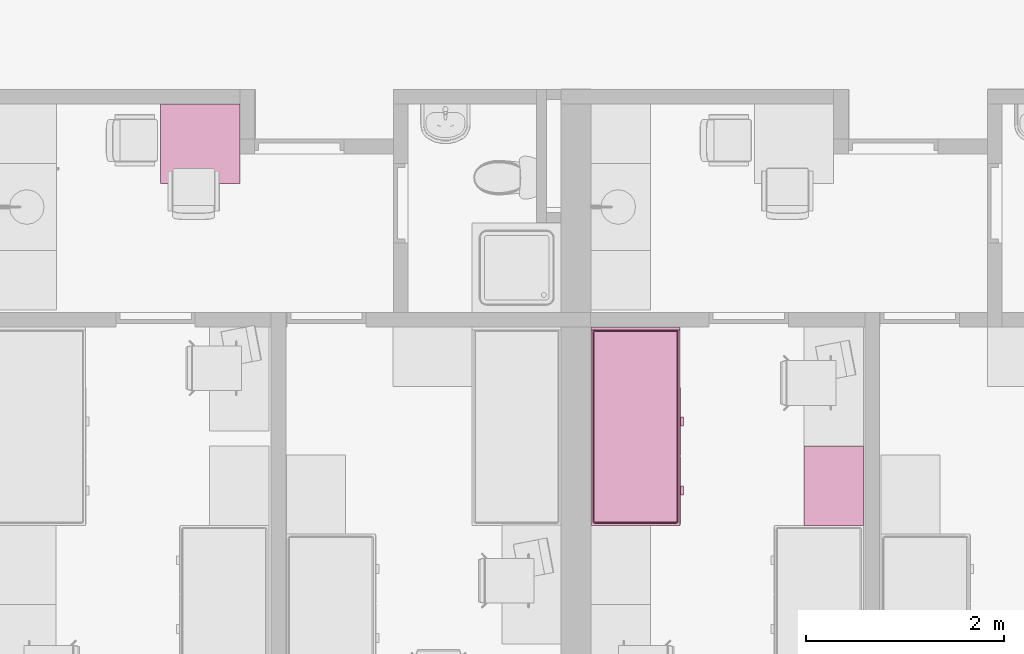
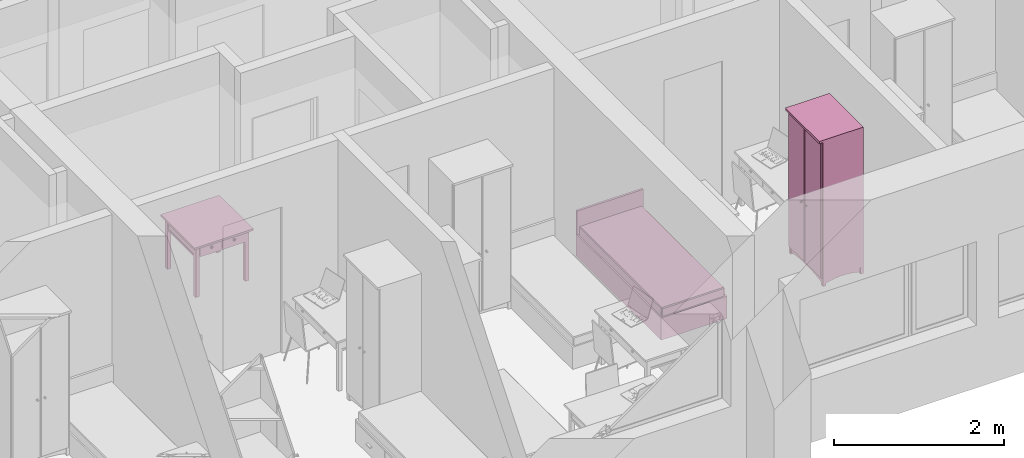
# One storey, part 105 of 165: 3 furnishings.
"""IFC2X3 building model written with IfcOpenShell, lengths in millimetres."""

import ifcopenshell
import ifcopenshell.guid

model = None  # the IFC model being written
_history = None  # IfcOwnerHistory: only IFC2X3 demands one
_inside = {}  # id of a spatial element -> (the spatial element, [elements in it])
_under = {}  # id of a project, library or spatial element -> (it, [spatial elements below it])
_declared = {}  # id of a project -> (the project, [libraries it declares])
_typed = {}  # id of a type object -> (the type object, [elements of that type])
_made_of = {}  # id of a material, layer set ... -> (it, [elements and type objects made of it])


def new_model(schema):
    """Start an empty IFC model of exactly this schema.

    Asked for "IFC4X3", IfcOpenShell would pick the latest addendum, in which some entities
    have other attributes; the version numbers below select the first issue.
    IFC2X3 requires an IfcOwnerHistory on every rooted entity: one is made here for all.
    """
    global model, _history
    if schema == "IFC4X3":
        model = ifcopenshell.file(schema_version=(4, 3, 0, 0))
    else:
        model = ifcopenshell.file(schema=schema)
    _inside.clear()
    _under.clear()
    _declared.clear()
    _typed.clear()
    _made_of.clear()
    _history = None
    if model.schema == "IFC2X3":
        org = make("IfcOrganization", Name="unknown")
        user = make(
            "IfcPersonAndOrganization",
            ThePerson=make("IfcPerson", FamilyName="unknown"),
            TheOrganization=org,
        )
        app = make(
            "IfcApplication",
            ApplicationDeveloper=org,
            Version="unknown",
            ApplicationFullName="unknown",
            ApplicationIdentifier="unknown",
        )
        _history = make(
            "IfcOwnerHistory",
            OwningUser=user,
            OwningApplication=app,
            ChangeAction="ADDED",
            CreationDate=0,
        )
    return model


def make(cls, **values):
    """One entity of the class cls with the attributes given. An attribute that is None is left unset."""
    return model.create_entity(
        cls, **{name: value for name, value in values.items() if value is not None}
    )


def entity(cls, *values):
    """Any entity or typed value of the class cls, its attributes in the order of the schema. None: left unset."""
    e = model.create_entity(cls)
    for i, value in enumerate(values):
        if value is not None:
            e[i] = value
    return e


def rooted(cls, **values):
    """An entity with a GlobalId (a new one), such as an element, a storey or a relation."""
    return make(cls, GlobalId=ifcopenshell.guid.new(), OwnerHistory=_history, **values)


def si_unit(unit_type, name, prefix=None):
    """IfcSIUnit, for example si_unit("LENGTHUNIT", "METRE", prefix="MILLI")."""
    return make("IfcSIUnit", UnitType=unit_type, Prefix=prefix, Name=name)


def converted_unit(unit_type, name, factor, base, dimensions=None, offset=None):
    """IfcConversionBasedUnit, such as the inch: factor (a typed value) times the base unit."""
    return make(
        "IfcConversionBasedUnit"
        if offset is None
        else "IfcConversionBasedUnitWithOffset",
        ConversionOffset=offset,
        Dimensions=None
        if dimensions is None
        else entity("IfcDimensionalExponents", *dimensions),
        UnitType=unit_type,
        Name=name,
        ConversionFactor=make(
            "IfcMeasureWithUnit", ValueComponent=factor, UnitComponent=base
        ),
    )


def money_unit(currency):
    """IfcMonetaryUnit."""
    return make("IfcMonetaryUnit", Currency=currency)


def assignment(units):
    """IfcUnitAssignment: the units of a project."""
    return None if units is None else make("IfcUnitAssignment", Units=units)


def point(xyz):
    """IfcCartesianPoint."""
    return None if xyz is None else make("IfcCartesianPoint", Coordinates=xyz)


def direction(xyz):
    """IfcDirection."""
    return None if xyz is None else make("IfcDirection", DirectionRatios=xyz)


def frame(location, z_axis=None, x_axis=None):
    """IfcAxis2Placement3D, a coordinate frame: its origin and axes. An axis left out is left unset."""
    return make(
        "IfcAxis2Placement3D",
        Location=point(location),
        Axis=direction(z_axis),
        RefDirection=direction(x_axis),
    )


def origin_with_axes():
    """The frame at (0, 0, 0) with the z axis (0, 0, 1) and the x axis (1, 0, 0) written out."""
    return frame((0.0, 0.0, 0.0), z_axis=(0.0, 0.0, 1.0), x_axis=(1.0, 0.0, 0.0))


def place(relative_to, where):
    """IfcLocalPlacement: puts the frame where relative to a parent placement (None: the world)."""
    return make(
        "IfcLocalPlacement", PlacementRelTo=relative_to, RelativePlacement=where
    )


def context(
    kind, dimensions, precision=None, world=None, true_north=None, identifier=None
):
    """IfcGeometricRepresentationContext, for example the 3D "Model" context."""
    return make(
        "IfcGeometricRepresentationContext",
        ContextIdentifier=identifier,
        ContextType=kind,
        CoordinateSpaceDimension=dimensions,
        Precision=precision,
        WorldCoordinateSystem=world,
        TrueNorth=true_north,
    )


def subcontext(parent, identifier, kind, view, scale=None):
    """IfcGeometricRepresentationSubContext, for example "Body" below "Model"."""
    return make(
        "IfcGeometricRepresentationSubContext",
        ContextIdentifier=identifier,
        ContextType=kind,
        ParentContext=parent,
        TargetScale=scale,
        TargetView=view,
    )


def project(units=None, contexts=None):
    """IfcProject with its units and contexts."""
    return rooted(
        "IfcProject",
        Name="project",
        RepresentationContexts=contexts,
        UnitsInContext=assignment(units),
    )


def spatial(cls, under=None, at=None, **own):
    """A site, building, storey or space (cls), placed at a placement, below another one or the project."""
    s = rooted(cls, ObjectPlacement=at, **own)
    if under is not None:
        _under.setdefault(under.id(), (under, []))[1].append(s)
    return s


def faces_of(points, faces, orient=None, outer=None):
    """IfcFace entities. A face is a list of loops; a loop is a list of indices into points, from 0.

    orient and outer hold one flag for each loop. By default every Orientation is true, the
    first loop of a face is its IfcFaceOuterBound and the others are IfcFaceBound.
    """
    made = []
    for i, loops in enumerate(faces):
        bounds = []
        for j, loop in enumerate(loops):
            is_outer = j == 0 if outer is None else outer[i][j]
            bounds.append(
                make(
                    "IfcFaceOuterBound" if is_outer else "IfcFaceBound",
                    Bound=make("IfcPolyLoop", Polygon=[points[k] for k in loop]),
                    Orientation=True if orient is None else orient[i][j],
                )
            )
        made.append(make("IfcFace", Bounds=bounds))
    return made


def faceted_brep(points, faces, orient=None, outer=None, voids=None):
    """IfcFacetedBrep: a solid bounded by flat faces; with voids (closed shells), ...WithVoids."""
    shared = [point(p) for p in points]
    hull = make("IfcClosedShell", CfsFaces=faces_of(shared, faces, orient, outer))
    if voids is None:
        return make("IfcFacetedBrep", Outer=hull)
    return make(
        "IfcFacetedBrepWithVoids",
        Outer=hull,
        Voids=[
            make(cls, CfsFaces=faces_of(shared, fs, o, b)) for cls, fs, o, b in voids
        ],
    )


def shape(context_of_items, identifier, shape_type, items):
    """IfcShapeRepresentation: the items that make up one representation, for example the "Body"."""
    return make(
        "IfcShapeRepresentation",
        ContextOfItems=context_of_items,
        RepresentationIdentifier=identifier,
        RepresentationType=shape_type,
        Items=items,
    )


def source(mapping_origin, context_of_items, identifier, shape_type, items):
    """IfcRepresentationMap: a shape defined once, which mapped items show again and again."""
    return make(
        "IfcRepresentationMap",
        MappingOrigin=mapping_origin,
        MappedRepresentation=shape(context_of_items, identifier, shape_type, items),
    )


def transform(
    local_origin,
    x_axis=None,
    y_axis=None,
    z_axis=None,
    scale=None,
    scale2=None,
    scale3=None,
    uniform=True,
):
    """IfcCartesianTransformationOperator3D, or its non-uniform kind. x_axis, y_axis, z_axis: its Axis1, 2, 3."""
    if uniform:
        return make(
            "IfcCartesianTransformationOperator3D",
            Axis1=direction(x_axis),
            Axis2=direction(y_axis),
            LocalOrigin=point(local_origin),
            Scale=scale,
            Axis3=direction(z_axis),
        )
    return make(
        "IfcCartesianTransformationOperator3DnonUniform",
        Axis1=direction(x_axis),
        Axis2=direction(y_axis),
        LocalOrigin=point(local_origin),
        Scale=scale,
        Axis3=direction(z_axis),
        Scale2=scale2,
        Scale3=scale3,
    )


def mapped(mapping_source, mapping_target):
    """IfcMappedItem: shows the shape of a source again, moved by a transform."""
    return make(
        "IfcMappedItem", MappingSource=mapping_source, MappingTarget=mapping_target
    )


def material(Name=None, Category=None):
    """IfcMaterial."""
    return make("IfcMaterial", Name=Name, Category=Category)


def material_list(materials):
    """IfcMaterialList."""
    return make("IfcMaterialList", Materials=materials)


def made_of(thing, what):
    """Note that an element or type object is made of a material, layer set ...; save() writes the relation."""
    if what is not None:
        _made_of.setdefault(what.id(), (what, []))[1].append(thing)
    return thing


def type_object(cls, material=None, **own):
    """A type object (cls), such as IfcWallType, which elements share."""
    return made_of(rooted(cls, **own), material)


def element(
    cls,
    number,
    at=None,
    inside=None,
    cuts=None,
    type_object=None,
    material=None,
    context=None,
    identifier="Body",
    shape_type=None,
    held_by="IfcProductDefinitionShape",
    body=None,
    shapes=None,
    **own,
):
    """One element of the class cls, such as IfcWall. Its Tag is "e" and its number.

    at: its placement. inside: the storey or other place that contains it. cuts: it is an
    opening in that element (IfcRelVoidsElement). A single representation is given by context,
    identifier, shape_type and body (its items); several are given by shapes. held_by: the class
    of the entity that holds the representations. save() writes the other relations.
    """
    e = rooted(cls, Tag="e%d" % number, ObjectPlacement=at, **own)
    if body is not None:
        shapes = [shape(context, identifier, shape_type, body)]
    if shapes is not None:
        e.Representation = make(held_by, Representations=shapes)
    if inside is not None:
        _inside.setdefault(inside.id(), (inside, []))[1].append(e)
    if cuts is not None:
        rooted(
            "IfcRelVoidsElement", RelatingBuildingElement=cuts, RelatedOpeningElement=e
        )
    if type_object is not None:
        _typed.setdefault(type_object.id(), (type_object, []))[1].append(e)
    return made_of(e, material)


def aggregate(whole, parts):
    """IfcRelAggregates: a whole, such as a stair, and the parts it consists of."""
    return rooted("IfcRelAggregates", RelatingObject=whole, RelatedObjects=parts)


def save(model, path):
    """Write the relations noted so far, then the file.

    IfcRelAggregates (storeys below a building ...), IfcRelContainedInSpatialStructure (elements
    in a storey), IfcRelDefinesByType, IfcRelAssociatesMaterial and IfcRelDeclares: one each for
    every whole, place, type object, material and project.
    """
    for whole, parts in _under.values():
        aggregate(whole, parts)
    for where, things in _inside.values():
        rooted(
            "IfcRelContainedInSpatialStructure",
            RelatedElements=things,
            RelatingStructure=where,
        )
    for kind, things in _typed.values():
        rooted("IfcRelDefinesByType", RelatedObjects=things, RelatingType=kind)
    for what, things in _made_of.values():
        rooted("IfcRelAssociatesMaterial", RelatedObjects=things, RelatingMaterial=what)
    for by, libraries in _declared.values():
        rooted("IfcRelDeclares", RelatingContext=by, RelatedDefinitions=libraries)
    model.write(path)


model = new_model("IFC2X3")

# Units and contexts
model_context = context("Model", 3, precision=1e-05, world=origin_with_axes(), true_north=direction((0.0, 1.0)))
body_context = subcontext(model_context, "Body", "Model", "MODEL_VIEW")
ifc_project = project(units=[si_unit("LENGTHUNIT", "METRE", prefix="MILLI"), si_unit("AREAUNIT", "SQUARE_METRE"), si_unit("VOLUMEUNIT", "CUBIC_METRE"), converted_unit("PLANEANGLEUNIT", "DEGREE", entity("IfcPlaneAngleMeasure", 0.0174532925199), si_unit("PLANEANGLEUNIT", "RADIAN"), dimensions=[0, 0, 0, 0, 0, 0, 0]), si_unit("SOLIDANGLEUNIT", "STERADIAN"), money_unit("USD"), converted_unit("TIMEUNIT", "Year", entity("IfcTimeMeasure", 31556926.0), si_unit("TIMEUNIT", "SECOND"), dimensions=[0, 0, 0, 0, 0, 0, 0]), si_unit("MASSUNIT", "GRAM"), si_unit("THERMODYNAMICTEMPERATUREUNIT", "DEGREE_CELSIUS"), si_unit("LUMINOUSINTENSITYUNIT", "LUMEN")], contexts=[model_context])

# Site, building, storey
site_placement = place(None, origin_with_axes())
site = spatial("IfcSite", under=ifc_project, at=site_placement, Name="Site", CompositionType="ELEMENT")
building_placement = place(site_placement, origin_with_axes())
building = spatial("IfcBuilding", under=site, at=building_placement, Name="Building", CompositionType="ELEMENT")
storey_placement = place(building_placement, frame((0.0, 0.0, 6300.0), z_axis=(0.0, 0.0, 1.0), x_axis=(1.0, 0.0, 0.0)))
storey = spatial("IfcBuildingStorey", under=building, at=storey_placement, Name="4KORRUS", CompositionType="ELEMENT", Elevation=6300.0)

# Furnishings
ifc_material = material(Name="Background")
ifc_material_list = material_list([ifc_material])
furnishing_element_type_1 = type_object("IfcFurnishingElementType", Name="Bed 19")
shared_shape_1 = source(origin_with_axes(), body_context, "Body", "Brep", [
    faceted_brep([(900.0, 1970.0, 0.0), (0.0, 1970.0, 0.0), (0.0, 2000.0, 0.0), (900.0, 2000.0, 0.0), (900.0, 1970.0, 660.0), (0.0, 1970.0, 660.0), (0.0, 2000.0, 660.0), (900.0, 2000.0, 660.0)], [[[0, 1, 2, 3]], [[1, 0, 4, 5]], [[2, 1, 5, 6]], [[3, 2, 6, 7]], [[0, 3, 7, 4]], [[5, 4, 7, 6]]]),
    faceted_brep([(900.0, 0.0, 0.0), (0.0, 0.0, 0.0), (0.0, 1970.0, 0.0), (900.0, 1970.0, 0.0), (900.0, 0.0, 320.0), (0.0, 0.0, 320.0), (0.0, 1970.0, 320.0), (900.0, 1970.0, 320.0)], [[[0, 1, 2, 3]], [[1, 0, 4, 5]], [[2, 1, 5, 6]], [[3, 2, 6, 7]], [[0, 3, 7, 4]], [[5, 4, 7, 6]]]),
    faceted_brep([(905.0, 10.0, 30.0), (900.0, 10.0, 30.0), (900.0, 695.0, 30.0), (905.0, 695.0, 30.0), (905.0, 10.0, 290.0), (900.0, 10.0, 290.0), (900.0, 695.0, 290.0), (905.0, 695.0, 290.0)], [[[0, 1, 2, 3]], [[1, 0, 4, 5]], [[2, 1, 5, 6]], [[3, 2, 6, 7]], [[0, 3, 7, 4]], [[5, 4, 7, 6]]]),
    faceted_brep([(935.0, 307.5, 150.0), (905.0, 307.5, 150.0), (905.0, 397.5, 150.0), (935.0, 397.5, 150.0), (935.0, 307.5, 170.0), (905.0, 307.5, 170.0), (905.0, 397.5, 170.0), (935.0, 397.5, 170.0)], [[[0, 1, 2, 3]], [[1, 0, 4, 5]], [[2, 1, 5, 6]], [[3, 2, 6, 7]], [[0, 3, 7, 4]], [[5, 4, 7, 6]]]),
    faceted_brep([(905.0, 705.0, 30.0), (900.0, 705.0, 30.0), (900.0, 1390.0, 30.0), (905.0, 1390.0, 30.0), (905.0, 705.0, 290.0), (900.0, 705.0, 290.0), (900.0, 1390.0, 290.0), (905.0, 1390.0, 290.0)], [[[0, 1, 2, 3]], [[1, 0, 4, 5]], [[2, 1, 5, 6]], [[3, 2, 6, 7]], [[0, 3, 7, 4]], [[5, 4, 7, 6]]]),
    faceted_brep([(935.0, 1002.5, 150.0), (905.0, 1002.5, 150.0), (905.0, 1092.5, 150.0), (935.0, 1092.5, 150.0), (935.0, 1002.5, 170.0), (905.0, 1002.5, 170.0), (905.0, 1092.5, 170.0), (935.0, 1092.5, 170.0)], [[[0, 1, 2, 3]], [[1, 0, 4, 5]], [[2, 1, 5, 6]], [[3, 2, 6, 7]], [[0, 3, 7, 4]], [[5, 4, 7, 6]]]),
    faceted_brep([(20.0, 40.0, 350.0), (20.0, 1950.0, 350.0), (21.522, 1957.654, 350.0), (25.858, 1964.142, 350.0), (32.346, 1968.478, 350.0), (40.0, 1970.0, 350.0), (860.0, 1970.0, 350.0), (867.654, 1968.478, 350.0), (874.142, 1964.142, 350.0), (878.478, 1957.654, 350.0), (880.0, 1950.0, 350.0), (880.0, 40.0, 350.0), (878.478, 32.346, 350.0), (874.142, 25.858, 350.0), (867.654, 21.522, 350.0), (860.0, 20.0, 350.0), (40.0, 20.0, 350.0), (32.346, 21.522, 350.0), (25.858, 25.858, 350.0), (21.522, 32.346, 350.0), (20.0, 40.0, 420.0), (20.0, 1950.0, 420.0), (21.522, 1957.654, 420.0), (25.858, 1964.142, 420.0), (32.346, 1968.478, 420.0), (40.0, 1970.0, 420.0), (860.0, 1970.0, 420.0), (867.654, 1968.478, 420.0), (874.142, 1964.142, 420.0), (878.478, 1957.654, 420.0), (880.0, 1950.0, 420.0), (880.0, 40.0, 420.0), (878.478, 32.346, 420.0), (874.142, 25.858, 420.0), (867.654, 21.522, 420.0), (860.0, 20.0, 420.0), (40.0, 20.0, 420.0), (32.346, 21.522, 420.0), (25.858, 25.858, 420.0), (21.522, 32.346, 420.0), (21.522, 40.15, 427.654), (21.522, 1949.85, 427.654), (22.956, 1957.06, 427.654), (26.955, 1963.045, 427.654), (32.94, 1967.044, 427.654), (40.15, 1968.478, 427.654), (859.85, 1968.478, 427.654), (867.06, 1967.044, 427.654), (873.045, 1963.045, 427.654), (877.044, 1957.06, 427.654), (878.478, 1949.85, 427.654), (878.478, 40.15, 427.654), (877.044, 32.94, 427.654), (873.045, 26.955, 427.654), (867.06, 22.956, 427.654), (859.85, 21.522, 427.654), (40.15, 21.522, 427.654), (32.94, 22.956, 427.654), (26.955, 26.955, 427.654), (22.956, 32.94, 427.654), (32.346, 41.216, 438.478), (32.346, 1948.784, 438.478), (33.152, 1952.836, 438.478), (34.759, 1955.241, 438.478), (37.164, 1956.848, 438.478), (41.216, 1957.654, 438.478), (858.784, 1957.654, 438.478), (862.836, 1956.848, 438.478), (865.241, 1955.241, 438.478), (866.848, 1952.836, 438.478), (867.654, 1948.784, 438.478), (867.654, 41.216, 438.478), (866.848, 37.164, 438.478), (865.241, 34.759, 438.478), (862.836, 33.152, 438.478), (858.784, 32.346, 438.478), (41.216, 32.346, 438.478), (37.164, 33.152, 438.478), (34.759, 34.759, 438.478), (33.152, 37.164, 438.478), (40.0, 41.97, 440.0), (40.0, 1948.03, 440.0), (40.327, 1949.673, 440.0), (40.0, 1950.0, 439.924), (41.97, 1950.0, 440.0), (858.03, 1950.0, 440.0), (859.673, 1949.673, 440.0), (860.0, 1950.0, 439.924), (860.0, 1948.03, 440.0), (860.0, 41.97, 440.0), (859.673, 40.327, 440.0), (860.0, 40.0, 439.924), (858.03, 40.0, 440.0), (41.97, 40.0, 440.0), (40.327, 40.327, 440.0), (40.0, 40.0, 439.924)], [[[0, 1, 2, 3, 4, 5, 6, 7, 8, 9, 10, 11, 12, 13, 14, 15, 16, 17, 18, 19]], [[1, 0, 20, 21]], [[2, 1, 21, 22]], [[3, 2, 22, 23]], [[4, 3, 23, 24]], [[5, 4, 24, 25]], [[6, 5, 25, 26]], [[7, 6, 26, 27]], [[8, 7, 27, 28]], [[9, 8, 28, 29]], [[10, 9, 29, 30]], [[11, 10, 30, 31]], [[12, 11, 31, 32]], [[13, 12, 32, 33]], [[14, 13, 33, 34]], [[15, 14, 34, 35]], [[16, 15, 35, 36]], [[17, 16, 36, 37]], [[18, 17, 37, 38]], [[19, 18, 38, 39]], [[0, 19, 39, 20]], [[21, 20, 40, 41]], [[22, 21, 41, 42]], [[23, 22, 42, 43]], [[24, 23, 43, 44]], [[25, 24, 44, 45]], [[26, 25, 45, 46]], [[27, 26, 46, 47]], [[28, 27, 47, 48]], [[29, 28, 48, 49]], [[30, 29, 49, 50]], [[31, 30, 50, 51]], [[32, 31, 51, 52]], [[33, 32, 52, 53]], [[34, 33, 53, 54]], [[35, 34, 54, 55]], [[36, 35, 55, 56]], [[37, 36, 56, 57]], [[38, 37, 57, 58]], [[39, 38, 58, 59]], [[20, 39, 59, 40]], [[41, 40, 60, 61]], [[42, 41, 61, 62]], [[43, 42, 62, 63]], [[44, 43, 63, 64]], [[45, 44, 64, 65]], [[46, 45, 65, 66]], [[47, 46, 66, 67]], [[48, 47, 67, 68]], [[49, 48, 68, 69]], [[50, 49, 69, 70]], [[51, 50, 70, 71]], [[52, 51, 71, 72]], [[53, 52, 72, 73]], [[54, 53, 73, 74]], [[55, 54, 74, 75]], [[56, 55, 75, 76]], [[57, 56, 76, 77]], [[58, 57, 77, 78]], [[59, 58, 78, 79]], [[40, 59, 79, 60]], [[61, 60, 80, 81]], [[62, 61, 81, 82, 83]], [[63, 62, 83]], [[64, 63, 83]], [[65, 64, 83, 82, 84]], [[66, 65, 84, 85]], [[67, 66, 85, 86, 87]], [[68, 67, 87]], [[69, 68, 87]], [[70, 69, 87, 86, 88]], [[71, 70, 88, 89]], [[72, 71, 89, 90, 91]], [[73, 72, 91]], [[74, 73, 91]], [[75, 74, 91, 90, 92]], [[76, 75, 92, 93]], [[77, 76, 93, 94, 95]], [[78, 77, 95]], [[79, 78, 95]], [[60, 79, 95, 94, 80]], [[81, 80, 94, 93, 92, 90, 89, 88, 86, 85, 84, 82]]]),
    faceted_brep([(20.0, 40.0, 350.0), (21.522, 32.346, 350.0), (25.858, 25.858, 350.0), (32.346, 21.522, 350.0), (40.0, 20.0, 350.0), (860.0, 20.0, 350.0), (867.654, 21.522, 350.0), (874.142, 25.858, 350.0), (878.478, 32.346, 350.0), (880.0, 40.0, 350.0), (880.0, 1950.0, 350.0), (878.478, 1957.654, 350.0), (874.142, 1964.142, 350.0), (867.654, 1968.478, 350.0), (860.0, 1970.0, 350.0), (40.0, 1970.0, 350.0), (32.346, 1968.478, 350.0), (25.858, 1964.142, 350.0), (21.522, 1957.654, 350.0), (20.0, 1950.0, 350.0), (20.0, 40.0, 320.0), (21.522, 32.346, 320.0), (25.858, 25.858, 320.0), (32.346, 21.522, 320.0), (40.0, 20.0, 320.0), (860.0, 20.0, 320.0), (867.654, 21.522, 320.0), (874.142, 25.858, 320.0), (878.478, 32.346, 320.0), (880.0, 40.0, 320.0), (880.0, 1950.0, 320.0), (878.478, 1957.654, 320.0), (874.142, 1964.142, 320.0), (867.654, 1968.478, 320.0), (860.0, 1970.0, 320.0), (40.0, 1970.0, 320.0), (32.346, 1968.478, 320.0), (25.858, 1964.142, 320.0), (21.522, 1957.654, 320.0), (20.0, 1950.0, 320.0)], [[[0, 1, 2, 3, 4, 5, 6, 7, 8, 9, 10, 11, 12, 13, 14, 15, 16, 17, 18, 19]], [[0, 20, 21, 1]], [[1, 21, 22, 2]], [[2, 22, 23, 3]], [[3, 23, 24, 4]], [[4, 24, 25, 5]], [[5, 25, 26, 6]], [[6, 26, 27, 7]], [[7, 27, 28, 8]], [[8, 28, 29, 9]], [[9, 29, 30, 10]], [[10, 30, 31, 11]], [[11, 31, 32, 12]], [[12, 32, 33, 13]], [[13, 33, 34, 14]], [[14, 34, 35, 15]], [[15, 35, 36, 16]], [[16, 36, 37, 17]], [[17, 37, 38, 18]], [[18, 38, 39, 19]], [[19, 39, 20, 0]], [[20, 39, 38, 37, 36, 35, 34, 33, 32, 31, 30, 29, 28, 27, 26, 25, 24, 23, 22, 21]]]),
])
furnishing_1_placement = place(storey_placement, frame((-17990.2967033, -17439.2398994, 0.0), z_axis=(0.0, 0.0, 1.0), x_axis=(1.0, 0.0, 0.0)))
element("IfcFurnishingElement", 1, at=furnishing_1_placement, inside=storey, type_object=furnishing_element_type_1, material=ifc_material_list, Name="FU - 013", context=body_context, shape_type="MappedRepresentation", body=[
    mapped(shared_shape_1, transform((0.0, 0.0, 0.0))),
])
furnishing_element_type_2 = type_object("IfcFurnishingElementType", Name="Cupboard 19")
shared_shape_2 = source(origin_with_axes(), body_context, "Body", "Brep", [
    faceted_brep([(780.0, 600.0, 120.0), (780.0, 600.0, 2050.0), (780.0, 580.0, 2050.0), (780.0, 580.0, 120.0), (20.0, 600.0, 120.0), (20.0, 600.0, 2050.0), (20.0, 580.0, 2050.0), (20.0, 580.0, 120.0)], [[[0, 1, 2, 3]], [[4, 5, 1, 0]], [[1, 5, 6, 2]], [[3, 2, 6, 7]], [[0, 3, 7, 4]], [[7, 6, 5, 4]]]),
    faceted_brep([(0.0, 50.0, 100.0), (0.0, 600.0, 100.0), (20.0, 600.0, 100.0), (20.0, 50.0, 100.0), (0.0, 50.0, 2070.0), (0.0, 600.0, 2070.0), (20.0, 600.0, 2070.0), (20.0, 50.0, 2070.0)], [[[0, 1, 2, 3]], [[0, 4, 5, 1]], [[1, 5, 6, 2]], [[2, 6, 7, 3]], [[3, 7, 4, 0]], [[7, 6, 5, 4]]]),
    faceted_brep([(780.0, 50.0, 100.0), (780.0, 600.0, 100.0), (800.0, 600.0, 100.0), (800.0, 50.0, 100.0), (780.0, 50.0, 2070.0), (780.0, 600.0, 2070.0), (800.0, 600.0, 2070.0), (800.0, 50.0, 2070.0)], [[[0, 1, 2, 3]], [[0, 4, 5, 1]], [[1, 5, 6, 2]], [[2, 6, 7, 3]], [[3, 7, 4, 0]], [[7, 6, 5, 4]]]),
    faceted_brep([(20.0, 50.0, 100.0), (20.0, 600.0, 100.0), (780.0, 600.0, 100.0), (780.0, 50.0, 100.0), (20.0, 50.0, 120.0), (20.0, 600.0, 120.0), (780.0, 600.0, 120.0), (780.0, 50.0, 120.0)], [[[0, 1, 2, 3]], [[0, 4, 5, 1]], [[1, 5, 6, 2]], [[2, 6, 7, 3]], [[3, 7, 4, 0]], [[7, 6, 5, 4]]]),
    faceted_brep([(20.0, 50.0, 2050.0), (20.0, 600.0, 2050.0), (780.0, 600.0, 2050.0), (780.0, 50.0, 2050.0), (20.0, 50.0, 2070.0), (20.0, 600.0, 2070.0), (780.0, 600.0, 2070.0), (780.0, 50.0, 2070.0)], [[[0, 1, 2, 3]], [[0, 4, 5, 1]], [[1, 5, 6, 2]], [[2, 6, 7, 3]], [[3, 7, 4, 0]], [[7, 6, 5, 4]]]),
    faceted_brep([(0.0, 600.0, 2070.0), (0.0, 0.0, 2070.0), (0.0, 0.0, 2100.0), (0.0, 600.0, 2100.0), (800.0, 600.0, 2070.0), (800.0, 0.0, 2070.0), (800.0, 0.0, 2100.0), (800.0, 600.0, 2100.0)], [[[0, 1, 2, 3]], [[0, 4, 5, 1]], [[1, 5, 6, 2]], [[3, 2, 6, 7]], [[4, 0, 3, 7]], [[5, 4, 7, 6]]]),
    faceted_brep([(760.0, 590.0, 25.0), (760.0, 570.0, 25.0), (640.962, 570.0, 45.8), (640.962, 590.0, 45.8), (760.0, 590.0, 100.0), (760.0, 570.0, 100.0), (40.0, 570.0, 100.0), (40.0, 570.0, 25.0), (159.038, 570.0, 45.8), (279.23, 570.0, 58.32), (400.0, 570.0, 62.5), (520.77, 570.0, 58.32), (520.77, 590.0, 58.32), (400.0, 590.0, 62.5), (279.23, 590.0, 58.32), (159.038, 590.0, 45.8), (40.0, 590.0, 25.0), (40.0, 590.0, 100.0)], [[[0, 1, 2, 3]], [[4, 5, 1, 0]], [[1, 5, 6, 7, 8, 9, 10, 11, 2]], [[3, 2, 11, 12]], [[0, 3, 12, 13, 14, 15, 16, 17, 4]], [[17, 6, 5, 4]], [[16, 7, 6, 17]], [[15, 8, 7, 16]], [[14, 9, 8, 15]], [[13, 10, 9, 14]], [[12, 11, 10, 13]]]),
    faceted_brep([(760.0, 80.0, 25.0), (760.0, 60.0, 25.0), (640.962, 60.0, 45.8), (640.962, 80.0, 45.8), (760.0, 80.0, 100.0), (760.0, 60.0, 100.0), (40.0, 60.0, 100.0), (40.0, 60.0, 25.0), (159.038, 60.0, 45.8), (279.23, 60.0, 58.32), (400.0, 60.0, 62.5), (520.77, 60.0, 58.32), (520.77, 80.0, 58.32), (400.0, 80.0, 62.5), (279.23, 80.0, 58.32), (159.038, 80.0, 45.8), (40.0, 80.0, 25.0), (40.0, 80.0, 100.0)], [[[0, 1, 2, 3]], [[4, 5, 1, 0]], [[1, 5, 6, 7, 8, 9, 10, 11, 2]], [[3, 2, 11, 12]], [[0, 3, 12, 13, 14, 15, 16, 17, 4]], [[17, 6, 5, 4]], [[16, 7, 6, 17]], [[15, 8, 7, 16]], [[14, 9, 8, 15]], [[13, 10, 9, 14]], [[12, 11, 10, 13]]]),
    faceted_brep([(790.0, 90.0, 25.0), (770.0, 90.0, 25.0), (770.0, 141.266, 38.072), (790.0, 141.266, 38.072), (790.0, 90.0, 100.0), (770.0, 90.0, 100.0), (770.0, 560.0, 100.0), (770.0, 560.0, 25.0), (770.0, 508.734, 38.072), (770.0, 456.752, 47.92), (770.0, 404.257, 54.508), (770.0, 351.453, 57.808), (770.0, 298.547, 57.808), (770.0, 245.743, 54.508), (770.0, 193.248, 47.92), (790.0, 193.248, 47.92), (790.0, 245.743, 54.508), (790.0, 298.547, 57.808), (790.0, 351.453, 57.808), (790.0, 404.257, 54.508), (790.0, 456.752, 47.92), (790.0, 508.734, 38.072), (790.0, 560.0, 25.0), (790.0, 560.0, 100.0)], [[[0, 1, 2, 3]], [[4, 5, 1, 0]], [[1, 5, 6, 7, 8, 9, 10, 11, 12, 13, 14, 2]], [[3, 2, 14, 15]], [[0, 3, 15, 16, 17, 18, 19, 20, 21, 22, 23, 4]], [[23, 6, 5, 4]], [[22, 7, 6, 23]], [[21, 8, 7, 22]], [[20, 9, 8, 21]], [[19, 10, 9, 20]], [[18, 11, 10, 19]], [[17, 12, 11, 18]], [[16, 13, 12, 17]], [[15, 14, 13, 16]]]),
    faceted_brep([(30.0, 90.0, 25.0), (10.0, 90.0, 25.0), (10.0, 141.266, 38.072), (30.0, 141.266, 38.072), (30.0, 90.0, 100.0), (10.0, 90.0, 100.0), (10.0, 560.0, 100.0), (10.0, 560.0, 25.0), (10.0, 508.734, 38.072), (10.0, 456.752, 47.92), (10.0, 404.257, 54.508), (10.0, 351.453, 57.808), (10.0, 298.547, 57.808), (10.0, 245.743, 54.508), (10.0, 193.248, 47.92), (30.0, 193.248, 47.92), (30.0, 245.743, 54.508), (30.0, 298.547, 57.808), (30.0, 351.453, 57.808), (30.0, 404.257, 54.508), (30.0, 456.752, 47.92), (30.0, 508.734, 38.072), (30.0, 560.0, 25.0), (30.0, 560.0, 100.0)], [[[0, 1, 2, 3]], [[4, 5, 1, 0]], [[1, 5, 6, 7, 8, 9, 10, 11, 12, 13, 14, 2]], [[3, 2, 14, 15]], [[0, 3, 15, 16, 17, 18, 19, 20, 21, 22, 23, 4]], [[23, 6, 5, 4]], [[22, 7, 6, 23]], [[21, 8, 7, 22]], [[20, 9, 8, 21]], [[19, 10, 9, 20]], [[18, 11, 10, 19]], [[17, 12, 11, 18]], [[16, 13, 12, 17]], [[15, 14, 13, 16]]]),
    faceted_brep([(760.0, 560.0, 0.0), (760.0, 560.0, 100.0), (760.0, 600.0, 100.0), (760.0, 600.0, 0.0), (800.0, 560.0, 0.0), (800.0, 560.0, 100.0), (800.0, 600.0, 100.0), (800.0, 600.0, 0.0)], [[[0, 1, 2, 3]], [[4, 5, 1, 0]], [[1, 5, 6, 2]], [[3, 2, 6, 7]], [[0, 3, 7, 4]], [[7, 6, 5, 4]]]),
    faceted_brep([(0.0, 560.0, 0.0), (0.0, 560.0, 100.0), (0.0, 600.0, 100.0), (0.0, 600.0, 0.0), (40.0, 560.0, 0.0), (40.0, 560.0, 100.0), (40.0, 600.0, 100.0), (40.0, 600.0, 0.0)], [[[0, 1, 2, 3]], [[4, 5, 1, 0]], [[1, 5, 6, 2]], [[3, 2, 6, 7]], [[0, 3, 7, 4]], [[7, 6, 5, 4]]]),
    faceted_brep([(760.0, 50.0, 0.0), (760.0, 50.0, 100.0), (760.0, 90.0, 100.0), (760.0, 90.0, 0.0), (800.0, 50.0, 0.0), (800.0, 50.0, 100.0), (800.0, 90.0, 100.0), (800.0, 90.0, 0.0)], [[[0, 1, 2, 3]], [[4, 5, 1, 0]], [[1, 5, 6, 2]], [[3, 2, 6, 7]], [[0, 3, 7, 4]], [[7, 6, 5, 4]]]),
    faceted_brep([(0.0, 50.0, 0.0), (0.0, 50.0, 100.0), (0.0, 90.0, 100.0), (0.0, 90.0, 0.0), (40.0, 50.0, 0.0), (40.0, 50.0, 100.0), (40.0, 90.0, 100.0), (40.0, 90.0, 0.0)], [[[0, 1, 2, 3]], [[4, 5, 1, 0]], [[1, 5, 6, 2]], [[3, 2, 6, 7]], [[0, 3, 7, 4]], [[7, 6, 5, 4]]]),
    faceted_brep([(780.0, 580.0, 587.5), (780.0, 580.0, 607.5), (780.0, 50.0, 607.5), (780.0, 50.0, 587.5), (20.0, 580.0, 587.5), (20.0, 580.0, 607.5), (20.0, 50.0, 607.5), (20.0, 50.0, 587.5)], [[[0, 1, 2, 3]], [[4, 5, 1, 0]], [[1, 5, 6, 2]], [[3, 2, 6, 7]], [[0, 3, 7, 4]], [[7, 6, 5, 4]]]),
    faceted_brep([(780.0, 580.0, 1075.0), (780.0, 580.0, 1095.0), (780.0, 50.0, 1095.0), (780.0, 50.0, 1075.0), (20.0, 580.0, 1075.0), (20.0, 580.0, 1095.0), (20.0, 50.0, 1095.0), (20.0, 50.0, 1075.0)], [[[0, 1, 2, 3]], [[4, 5, 1, 0]], [[1, 5, 6, 2]], [[3, 2, 6, 7]], [[0, 3, 7, 4]], [[7, 6, 5, 4]]]),
    faceted_brep([(780.0, 580.0, 1562.5), (780.0, 580.0, 1582.5), (780.0, 50.0, 1582.5), (780.0, 50.0, 1562.5), (20.0, 580.0, 1562.5), (20.0, 580.0, 1582.5), (20.0, 50.0, 1582.5), (20.0, 50.0, 1562.5)], [[[0, 1, 2, 3]], [[4, 5, 1, 0]], [[1, 5, 6, 2]], [[3, 2, 6, 7]], [[0, 3, 7, 4]], [[7, 6, 5, 4]]]),
    faceted_brep([(789.5, 50.0, 110.5), (400.5, 50.0, 110.5), (400.5, 50.0, 2059.5), (789.5, 50.0, 2059.5), (789.5, 40.0, 110.5), (400.5, 40.0, 110.5), (400.5, 40.0, 2059.5), (789.5, 40.0, 2059.5), (779.5, 30.0, 120.5), (410.5, 30.0, 120.5), (410.5, 30.0, 2049.5), (779.5, 30.0, 2049.5)], [[[0, 1, 2, 3]], [[0, 4, 5, 1]], [[1, 5, 6, 2]], [[2, 6, 7, 3]], [[3, 7, 4, 0]], [[4, 8, 9, 5]], [[5, 9, 10, 6]], [[6, 10, 11, 7]], [[7, 11, 8, 4]], [[10, 9, 8, 11]]]),
    faceted_brep([(399.5, 50.0, 110.5), (10.5, 50.0, 110.5), (10.5, 50.0, 2059.5), (399.5, 50.0, 2059.5), (399.5, 40.0, 110.5), (10.5, 40.0, 110.5), (10.5, 40.0, 2059.5), (399.5, 40.0, 2059.5), (389.5, 30.0, 120.5), (20.5, 30.0, 120.5), (20.5, 30.0, 2049.5), (389.5, 30.0, 2049.5)], [[[0, 1, 2, 3]], [[0, 4, 5, 1]], [[1, 5, 6, 2]], [[2, 6, 7, 3]], [[3, 7, 4, 0]], [[4, 8, 9, 5]], [[5, 9, 10, 6]], [[6, 10, 11, 7]], [[7, 11, 8, 4]], [[10, 9, 8, 11]]]),
    faceted_brep([(339.608, 30.0, 954.0), (338.0, 30.0, 960.0), (339.608, 30.0, 966.0), (344.0, 30.0, 970.392), (350.0, 30.0, 972.0), (356.0, 30.0, 970.392), (360.392, 30.0, 966.0), (362.0, 30.0, 960.0), (360.392, 30.0, 954.0), (356.0, 30.0, 949.608), (350.0, 30.0, 948.0), (344.0, 30.0, 949.608), (339.608, 5.0, 954.0), (338.0, 5.0, 960.0), (339.608, 5.0, 966.0), (344.0, 5.0, 970.392), (350.0, 5.0, 972.0), (356.0, 5.0, 970.392), (360.392, 5.0, 966.0), (362.0, 5.0, 960.0), (360.392, 5.0, 954.0), (356.0, 5.0, 949.608), (350.0, 5.0, 948.0), (344.0, 5.0, 949.608)], [[[0, 1, 2, 3, 4, 5, 6, 7, 8, 9, 10, 11]], [[0, 12, 13, 1]], [[1, 13, 14, 2]], [[2, 14, 15, 3]], [[3, 15, 16, 4]], [[4, 16, 17, 5]], [[5, 17, 18, 6]], [[6, 18, 19, 7]], [[7, 19, 20, 8]], [[8, 20, 21, 9]], [[9, 21, 22, 10]], [[10, 22, 23, 11]], [[11, 23, 12, 0]], [[12, 23, 22, 21, 20, 19, 18, 17, 16, 15, 14, 13]]]),
    faceted_brep([(460.392, 30.0, 954.0), (456.0, 30.0, 949.608), (450.0, 30.0, 948.0), (444.0, 30.0, 949.608), (439.608, 30.0, 954.0), (438.0, 30.0, 960.0), (439.608, 30.0, 966.0), (444.0, 30.0, 970.392), (450.0, 30.0, 972.0), (456.0, 30.0, 970.392), (460.392, 30.0, 966.0), (462.0, 30.0, 960.0), (460.392, 5.0, 954.0), (456.0, 5.0, 949.608), (450.0, 5.0, 948.0), (444.0, 5.0, 949.608), (439.608, 5.0, 954.0), (438.0, 5.0, 960.0), (439.608, 5.0, 966.0), (444.0, 5.0, 970.392), (450.0, 5.0, 972.0), (456.0, 5.0, 970.392), (460.392, 5.0, 966.0), (462.0, 5.0, 960.0)], [[[0, 1, 2, 3, 4, 5, 6, 7, 8, 9, 10, 11]], [[1, 0, 12, 13]], [[2, 1, 13, 14]], [[3, 2, 14, 15]], [[4, 3, 15, 16]], [[5, 4, 16, 17]], [[6, 5, 17, 18]], [[7, 6, 18, 19]], [[8, 7, 19, 20]], [[9, 8, 20, 21]], [[10, 9, 21, 22]], [[11, 10, 22, 23]], [[0, 11, 23, 12]], [[12, 23, 22, 21, 20, 19, 18, 17, 16, 15, 14, 13]]]),
])
furnishing_2_placement = place(storey_placement, frame((-15840.2967033, -16639.2398994, 0.0), z_axis=(0.0, 0.0, 1.0), x_axis=(0.0, -1.0, 0.0)))
element("IfcFurnishingElement", 2, at=furnishing_2_placement, inside=storey, type_object=furnishing_element_type_2, material=ifc_material_list, Name="FU - 014", context=body_context, shape_type="MappedRepresentation", body=[
    mapped(shared_shape_2, transform((0.0, 0.0, 0.0))),
])
furnishing_element_type_3 = type_object("IfcFurnishingElementType", Name="Rectangular Table 01 19")
shared_shape_3 = source(origin_with_axes(), body_context, "Body", "Brep", [
    faceted_brep([(90.0, 40.0, 0.0), (40.0, 40.0, 0.0), (40.0, 90.0, 0.0), (90.0, 90.0, 0.0), (90.0, 40.0, 725.0), (40.0, 40.0, 725.0), (40.0, 90.0, 725.0), (90.0, 90.0, 725.0)], [[[0, 1, 2, 3]], [[1, 0, 4, 5]], [[2, 1, 5, 6]], [[3, 2, 6, 7]], [[0, 3, 7, 4]], [[5, 4, 7, 6]]]),
    faceted_brep([(760.0, 40.0, 0.0), (710.0, 40.0, 0.0), (710.0, 90.0, 0.0), (760.0, 90.0, 0.0), (760.0, 40.0, 725.0), (710.0, 40.0, 725.0), (710.0, 90.0, 725.0), (760.0, 90.0, 725.0)], [[[0, 1, 2, 3]], [[1, 0, 4, 5]], [[2, 1, 5, 6]], [[3, 2, 6, 7]], [[0, 3, 7, 4]], [[5, 4, 7, 6]]]),
    faceted_brep([(90.0, 710.0, 0.0), (40.0, 710.0, 0.0), (40.0, 760.0, 0.0), (90.0, 760.0, 0.0), (90.0, 710.0, 725.0), (40.0, 710.0, 725.0), (40.0, 760.0, 725.0), (90.0, 760.0, 725.0)], [[[0, 1, 2, 3]], [[1, 0, 4, 5]], [[2, 1, 5, 6]], [[3, 2, 6, 7]], [[0, 3, 7, 4]], [[5, 4, 7, 6]]]),
    faceted_brep([(760.0, 710.0, 0.0), (710.0, 710.0, 0.0), (710.0, 760.0, 0.0), (760.0, 760.0, 0.0), (760.0, 710.0, 725.0), (710.0, 710.0, 725.0), (710.0, 760.0, 725.0), (760.0, 760.0, 725.0)], [[[0, 1, 2, 3]], [[1, 0, 4, 5]], [[2, 1, 5, 6]], [[3, 2, 6, 7]], [[0, 3, 7, 4]], [[5, 4, 7, 6]]]),
    faceted_brep([(760.0, 40.0, 565.0), (40.0, 40.0, 565.0), (40.0, 760.0, 565.0), (760.0, 760.0, 565.0), (760.0, 40.0, 585.0), (40.0, 40.0, 585.0), (40.0, 760.0, 585.0), (760.0, 760.0, 585.0)], [[[0, 1, 2, 3]], [[1, 0, 4, 5]], [[2, 1, 5, 6]], [[3, 2, 6, 7]], [[0, 3, 7, 4]], [[5, 4, 7, 6]]]),
    faceted_brep([(710.0, 52.5, 585.0), (90.0, 52.5, 585.0), (90.0, 77.5, 585.0), (710.0, 77.5, 585.0), (710.0, 52.5, 745.0), (90.0, 52.5, 745.0), (90.0, 77.5, 745.0), (710.0, 77.5, 745.0)], [[[0, 1, 2, 3]], [[1, 0, 4, 5]], [[2, 1, 5, 6]], [[3, 2, 6, 7]], [[0, 3, 7, 4]], [[5, 4, 7, 6]]]),
    faceted_brep([(77.5, 90.0, 585.0), (52.5, 90.0, 585.0), (52.5, 710.0, 585.0), (77.5, 710.0, 585.0), (77.5, 90.0, 745.0), (52.5, 90.0, 745.0), (52.5, 710.0, 745.0), (77.5, 710.0, 745.0)], [[[0, 1, 2, 3]], [[1, 0, 4, 5]], [[2, 1, 5, 6]], [[3, 2, 6, 7]], [[0, 3, 7, 4]], [[5, 4, 7, 6]]]),
    faceted_brep([(90.0, 747.5, 585.0), (710.0, 747.5, 585.0), (710.0, 722.5, 585.0), (90.0, 722.5, 585.0), (90.0, 747.5, 745.0), (710.0, 747.5, 745.0), (710.0, 722.5, 745.0), (90.0, 722.5, 745.0)], [[[0, 1, 2, 3]], [[1, 0, 4, 5]], [[2, 1, 5, 6]], [[3, 2, 6, 7]], [[0, 3, 7, 4]], [[5, 4, 7, 6]]]),
    faceted_brep([(722.5, 710.0, 585.0), (747.5, 710.0, 585.0), (747.5, 90.0, 585.0), (722.5, 90.0, 585.0), (722.5, 710.0, 745.0), (747.5, 710.0, 745.0), (747.5, 90.0, 745.0), (722.5, 90.0, 745.0)], [[[0, 1, 2, 3]], [[1, 0, 4, 5]], [[2, 1, 5, 6]], [[3, 2, 6, 7]], [[0, 3, 7, 4]], [[5, 4, 7, 6]]]),
    faceted_brep([(397.5, 40.0, 585.0), (95.0, 40.0, 585.0), (95.0, 60.0, 585.0), (397.5, 60.0, 585.0), (397.5, 40.0, 745.0), (95.0, 40.0, 745.0), (95.0, 60.0, 745.0), (397.5, 60.0, 745.0)], [[[0, 1, 2, 3]], [[1, 0, 4, 5]], [[2, 1, 5, 6]], [[3, 2, 6, 7]], [[0, 3, 7, 4]], [[5, 4, 7, 6]]]),
    faceted_brep([(705.0, 40.0, 585.0), (402.5, 40.0, 585.0), (402.5, 60.0, 585.0), (705.0, 60.0, 585.0), (705.0, 40.0, 745.0), (402.5, 40.0, 745.0), (402.5, 60.0, 745.0), (705.0, 60.0, 745.0)], [[[0, 1, 2, 3]], [[1, 0, 4, 5]], [[2, 1, 5, 6]], [[3, 2, 6, 7]], [[0, 3, 7, 4]], [[5, 4, 7, 6]]]),
    faceted_brep([(254.91, 40.0, 660.0), (251.25, 40.0, 656.34), (246.25, 40.0, 655.0), (241.25, 40.0, 656.34), (237.59, 40.0, 660.0), (236.25, 40.0, 665.0), (237.59, 40.0, 670.0), (241.25, 40.0, 673.66), (246.25, 40.0, 675.0), (251.25, 40.0, 673.66), (254.91, 40.0, 670.0), (256.25, 40.0, 665.0), (254.91, 25.0, 660.0), (251.25, 25.0, 656.34), (246.25, 25.0, 655.0), (241.25, 25.0, 656.34), (237.59, 25.0, 660.0), (236.25, 25.0, 665.0), (237.59, 25.0, 670.0), (241.25, 25.0, 673.66), (246.25, 25.0, 675.0), (251.25, 25.0, 673.66), (254.91, 25.0, 670.0), (256.25, 25.0, 665.0)], [[[0, 1, 2, 3, 4, 5, 6, 7, 8, 9, 10, 11]], [[1, 0, 12, 13]], [[2, 1, 13, 14]], [[3, 2, 14, 15]], [[4, 3, 15, 16]], [[5, 4, 16, 17]], [[6, 5, 17, 18]], [[7, 6, 18, 19]], [[8, 7, 19, 20]], [[9, 8, 20, 21]], [[10, 9, 21, 22]], [[11, 10, 22, 23]], [[0, 11, 23, 12]], [[12, 23, 22, 21, 20, 19, 18, 17, 16, 15, 14, 13]]]),
    faceted_brep([(256.25, 12.01, 665.0), (246.25, 10.0, 665.0), (254.91, 12.01, 660.0), (254.91, 12.01, 670.0), (251.25, 12.01, 656.34), (263.571, 17.5, 665.0), (261.25, 17.5, 656.34), (251.25, 12.01, 673.66), (261.25, 17.5, 673.66), (246.25, 12.01, 655.0), (254.91, 17.5, 650.0), (266.25, 25.0, 665.0), (263.571, 25.0, 655.0), (246.25, 12.01, 675.0), (254.91, 17.5, 680.0), (263.571, 25.0, 675.0), (241.25, 12.01, 656.34), (246.25, 17.5, 647.679), (256.25, 25.0, 647.679), (246.25, 25.0, 645.0), (236.25, 25.0, 647.679), (228.929, 25.0, 655.0), (226.25, 25.0, 665.0), (228.929, 25.0, 675.0), (236.25, 25.0, 682.321), (246.25, 25.0, 685.0), (256.25, 25.0, 682.321), (241.25, 12.01, 673.66), (246.25, 17.5, 682.321), (237.59, 12.01, 660.0), (237.59, 17.5, 650.0), (231.25, 17.5, 656.34), (228.929, 17.5, 665.0), (231.25, 17.5, 673.66), (237.59, 17.5, 680.0), (237.59, 12.01, 670.0), (236.25, 12.01, 665.0)], [[[0, 1, 2]], [[3, 1, 0]], [[2, 1, 4]], [[5, 0, 2, 6]], [[7, 1, 3]], [[8, 3, 0, 5]], [[4, 1, 9]], [[6, 2, 4, 10]], [[11, 5, 6, 12]], [[13, 1, 7]], [[14, 7, 3, 8]], [[15, 8, 5, 11]], [[9, 1, 16]], [[10, 4, 9, 17]], [[12, 6, 10, 18]], [[12, 18, 19, 20, 21, 22, 23, 24, 25, 26, 15, 11]], [[27, 1, 13]], [[28, 13, 7, 14]], [[26, 14, 8, 15]], [[16, 1, 29]], [[17, 9, 16, 30]], [[18, 10, 17, 19]], [[19, 17, 30, 20]], [[20, 30, 31, 21]], [[21, 31, 32, 22]], [[22, 32, 33, 23]], [[23, 33, 34, 24]], [[24, 34, 28, 25]], [[25, 28, 14, 26]], [[35, 1, 27]], [[34, 27, 13, 28]], [[29, 1, 36]], [[30, 16, 29, 31]], [[31, 29, 36, 32]], [[32, 36, 35, 33]], [[33, 35, 27, 34]], [[36, 1, 35]]]),
    faceted_brep([(562.41, 40.0, 660.0), (558.75, 40.0, 656.34), (553.75, 40.0, 655.0), (548.75, 40.0, 656.34), (545.09, 40.0, 660.0), (543.75, 40.0, 665.0), (545.09, 40.0, 670.0), (548.75, 40.0, 673.66), (553.75, 40.0, 675.0), (558.75, 40.0, 673.66), (562.41, 40.0, 670.0), (563.75, 40.0, 665.0), (562.41, 25.0, 660.0), (558.75, 25.0, 656.34), (553.75, 25.0, 655.0), (548.75, 25.0, 656.34), (545.09, 25.0, 660.0), (543.75, 25.0, 665.0), (545.09, 25.0, 670.0), (548.75, 25.0, 673.66), (553.75, 25.0, 675.0), (558.75, 25.0, 673.66), (562.41, 25.0, 670.0), (563.75, 25.0, 665.0)], [[[0, 1, 2, 3, 4, 5, 6, 7, 8, 9, 10, 11]], [[1, 0, 12, 13]], [[2, 1, 13, 14]], [[3, 2, 14, 15]], [[4, 3, 15, 16]], [[5, 4, 16, 17]], [[6, 5, 17, 18]], [[7, 6, 18, 19]], [[8, 7, 19, 20]], [[9, 8, 20, 21]], [[10, 9, 21, 22]], [[11, 10, 22, 23]], [[0, 11, 23, 12]], [[12, 23, 22, 21, 20, 19, 18, 17, 16, 15, 14, 13]]]),
    faceted_brep([(563.75, 12.01, 665.0), (553.75, 10.0, 665.0), (562.41, 12.01, 660.0), (562.41, 12.01, 670.0), (558.75, 12.01, 656.34), (571.071, 17.5, 665.0), (568.75, 17.5, 656.34), (558.75, 12.01, 673.66), (568.75, 17.5, 673.66), (553.75, 12.01, 655.0), (562.41, 17.5, 650.0), (573.75, 25.0, 665.0), (571.071, 25.0, 655.0), (553.75, 12.01, 675.0), (562.41, 17.5, 680.0), (571.071, 25.0, 675.0), (548.75, 12.01, 656.34), (553.75, 17.5, 647.679), (563.75, 25.0, 647.679), (553.75, 25.0, 645.0), (543.75, 25.0, 647.679), (536.429, 25.0, 655.0), (533.75, 25.0, 665.0), (536.429, 25.0, 675.0), (543.75, 25.0, 682.321), (553.75, 25.0, 685.0), (563.75, 25.0, 682.321), (548.75, 12.01, 673.66), (553.75, 17.5, 682.321), (545.09, 12.01, 660.0), (545.09, 17.5, 650.0), (538.75, 17.5, 656.34), (536.429, 17.5, 665.0), (538.75, 17.5, 673.66), (545.09, 17.5, 680.0), (545.09, 12.01, 670.0), (543.75, 12.01, 665.0)], [[[0, 1, 2]], [[3, 1, 0]], [[2, 1, 4]], [[5, 0, 2, 6]], [[7, 1, 3]], [[8, 3, 0, 5]], [[4, 1, 9]], [[6, 2, 4, 10]], [[11, 5, 6, 12]], [[13, 1, 7]], [[14, 7, 3, 8]], [[15, 8, 5, 11]], [[9, 1, 16]], [[10, 4, 9, 17]], [[12, 6, 10, 18]], [[12, 18, 19, 20, 21, 22, 23, 24, 25, 26, 15, 11]], [[27, 1, 13]], [[28, 13, 7, 14]], [[26, 14, 8, 15]], [[16, 1, 29]], [[17, 9, 16, 30]], [[18, 10, 17, 19]], [[19, 17, 30, 20]], [[20, 30, 31, 21]], [[21, 31, 32, 22]], [[22, 32, 33, 23]], [[23, 33, 34, 24]], [[24, 34, 28, 25]], [[25, 28, 14, 26]], [[35, 1, 27]], [[34, 27, 13, 28]], [[29, 1, 36]], [[30, 16, 29, 31]], [[31, 29, 36, 32]], [[32, 36, 35, 33]], [[33, 35, 27, 34]], [[36, 1, 35]]]),
    faceted_brep([(800.0, 0.0, 725.0), (0.0, 0.0, 725.0), (0.0, 800.0, 725.0), (800.0, 800.0, 725.0), (800.0, 0.0, 750.0), (0.0, 0.0, 750.0), (0.0, 800.0, 750.0), (800.0, 800.0, 750.0)], [[[0, 1, 2, 3]], [[1, 0, 4, 5]], [[2, 1, 5, 6]], [[3, 2, 6, 7]], [[0, 3, 7, 4]], [[5, 4, 7, 6]]]),
])
furnishing_3_placement = place(storey_placement, frame((-22333.8623684, -13989.2398994, 0.0), z_axis=(0.0, 0.0, 1.0), x_axis=(1.0, 0.0, 0.0)))
element("IfcFurnishingElement", 3, at=furnishing_3_placement, inside=storey, type_object=furnishing_element_type_3, material=ifc_material_list, Name="FU - 011", context=body_context, shape_type="MappedRepresentation", body=[
    mapped(shared_shape_3, transform((0.0, 0.0, 0.0))),
])

save(model, "model.ifc")
